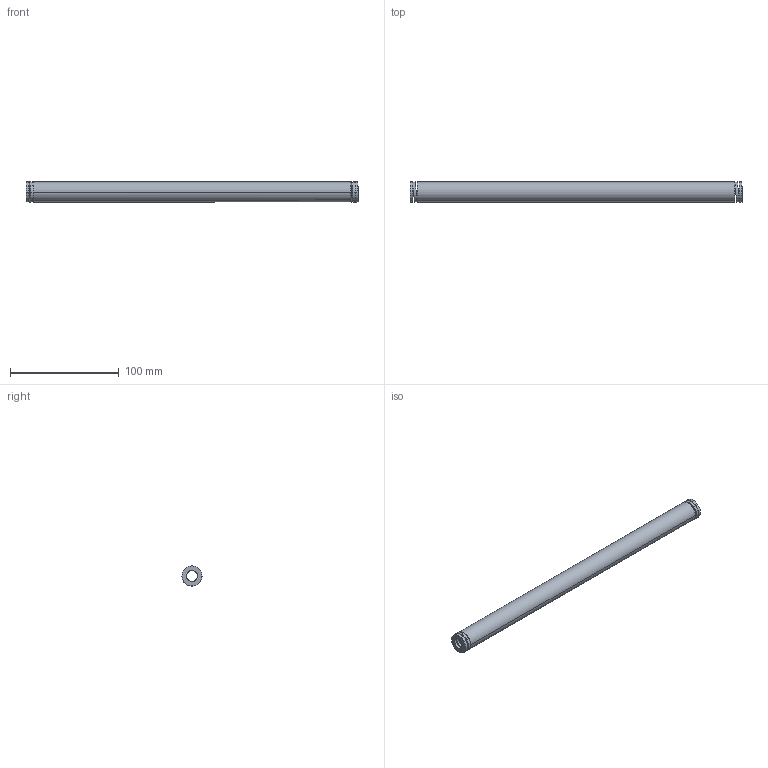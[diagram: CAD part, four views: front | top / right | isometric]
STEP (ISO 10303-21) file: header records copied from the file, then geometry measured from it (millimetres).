
FILE_DESCRIPTION(('CATIA V5 STEP Exchange'),'2;1');
FILE_NAME('C:\Users\Utente\Desktop\IO LAVORO\3D X SITO CF\X SITO\3D files 392B\392-B20-305.stp','2021-08-12T14:01:20+00:00',('none'),('none'),'CATIA Version 5 Release 20 GA (IN-10)','CATIA V5 STEP AP203','none');
FILE_SCHEMA(('CONFIG_CONTROL_DESIGN'));
Length unit declared in the file: millimetre
Products named in the file (1): 392-B20-305
Bounding box: 305 x 18.55 x 18.4 mm (x, y, z)
Volume: 55503.2 mm3; surface area: 28918.7 mm2
Topology: 1 solids, 1 shells, 38 faces, 92 edges, 64 vertices
Faces by surface type: cylinder 28, plane 10
Entity records: 1590 total; most frequent: CARTESIAN_POINT 707, ORIENTED_EDGE 184, DIRECTION 126, EDGE_CURVE 92, VERTEX_POINT 64, AXIS2_PLACEMENT_3D 61, EDGE_LOOP 56, B_SPLINE_CURVE_WITH_KNOTS 42
